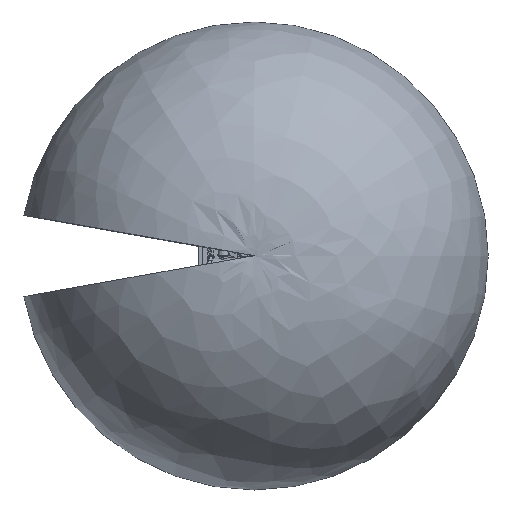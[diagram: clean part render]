
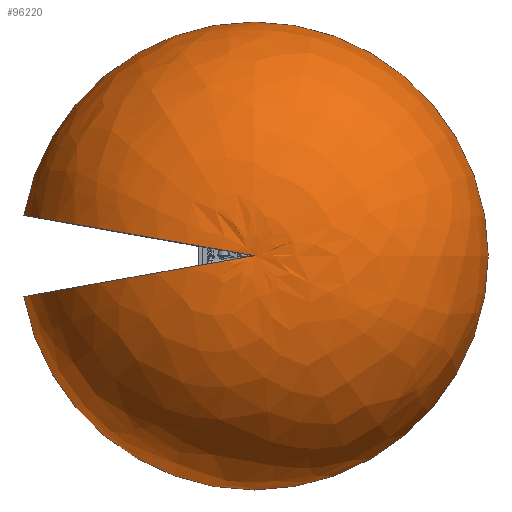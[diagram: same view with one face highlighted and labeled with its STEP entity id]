
A CAD part, top view. The second image highlights one B-rep face of the part: STEP entity #96220.
In plain terms, the highlighted free-form (B-spline) face has degree [2, 2] with [5, 9] control points.
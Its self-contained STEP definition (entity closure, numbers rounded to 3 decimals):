
#249=(
BOUNDED_SURFACE()
B_SPLINE_SURFACE(2,2,((#233403,#233404,#233405,#233406,#233407,#233408,
#233409,#233410,#233411),(#233412,#233413,#233414,#233415,#233416,#233417,
#233418,#233419,#233420),(#233421,#233422,#233423,#233424,#233425,#233426,
#233427,#233428,#233429),(#233430,#233431,#233432,#233433,#233434,#233435,
#233436,#233437,#233438),(#233439,#233440,#233441,#233442,#233443,#233444,
#233445,#233446,#233447)),.UNSPECIFIED.,.F.,.F.,.F.)
B_SPLINE_SURFACE_WITH_KNOTS((3,2,3),(3,2,2,2,3),(0.086,0.897,
1.708),(-2.967,-1.484,0.,
1.484,2.967),.UNSPECIFIED.)
GEOMETRIC_REPRESENTATION_ITEM()
RATIONAL_B_SPLINE_SURFACE(((1.,0.737,1.,0.737,1.,
0.737,1.,0.737,1.),(0.919,0.677,
0.919,0.677,0.919,0.677,
0.919,0.677,0.919),(1.,0.737,
1.,0.737,1.,0.737,1.,0.737,1.),(0.919,
0.677,0.919,0.677,0.919,
0.677,0.919,0.677,0.919),
(1.,0.737,1.,0.737,1.,0.737,1.,0.737,
1.)))
REPRESENTATION_ITEM('')
SURFACE()
);
#8051=CIRCLE('',#105089,2650.);
#8058=CIRCLE('',#105096,2338.568);
#8059=CIRCLE('',#105097,2338.568);
#14043=FACE_OUTER_BOUND('',#20520,.T.);
#20520=EDGE_LOOP('',(#86777,#86778,#86779));
#46050=VERTEX_POINT('',#233318);
#46051=VERTEX_POINT('',#233320);
#46055=VERTEX_POINT('',#233448);
#59624=EDGE_CURVE('',#46051,#46050,#8051,.T.);
#59631=EDGE_CURVE('',#46055,#46050,#8058,.T.);
#59632=EDGE_CURVE('',#46055,#46051,#8059,.T.);
#86777=ORIENTED_EDGE('',*,*,#59624,.T.);
#86778=ORIENTED_EDGE('',*,*,#59631,.F.);
#86779=ORIENTED_EDGE('',*,*,#59632,.T.);
#96220=ADVANCED_FACE('',(#14043),#249,.F.);
#105089=AXIS2_PLACEMENT_3D('',#233321,#130332,#130333);
#105096=AXIS2_PLACEMENT_3D('',#233449,#130346,#130347);
#105097=AXIS2_PLACEMENT_3D('',#233450,#130348,#130349);
#130332=DIRECTION('center_axis',(0.,0.,1.));
#130333=DIRECTION('ref_axis',(1.,0.,0.));
#130346=DIRECTION('center_axis',(-0.174,-0.985,
0.));
#130347=DIRECTION('ref_axis',(0.,0.,-1.));
#130348=DIRECTION('center_axis',(0.174,-0.985,0.));
#130349=DIRECTION('ref_axis',(0.,0.,-1.));
#233318=CARTESIAN_POINT('',(-2609.741,460.168,980.));
#233320=CARTESIAN_POINT('',(-2609.741,-460.168,980.));
#233321=CARTESIAN_POINT('Origin',(0.,0.,980.));
#233403=CARTESIAN_POINT('Ctrl Pts',(-2609.741,-460.168,
980.));
#233404=CARTESIAN_POINT('Ctrl Pts',(-2188.075,-2851.554,
980.));
#233405=CARTESIAN_POINT('Ctrl Pts',(230.963,-2639.916,
980.));
#233406=CARTESIAN_POINT('Ctrl Pts',(2650.,-2428.278,980.));
#233407=CARTESIAN_POINT('Ctrl Pts',(2650.,0.,980.));
#233408=CARTESIAN_POINT('Ctrl Pts',(2650.,2428.278,980.));
#233409=CARTESIAN_POINT('Ctrl Pts',(230.963,2639.916,980.));
#233410=CARTESIAN_POINT('Ctrl Pts',(-2188.075,2851.554,
980.));
#233411=CARTESIAN_POINT('Ctrl Pts',(-2609.741,460.168,
980.));
#233412=CARTESIAN_POINT('Ctrl Pts',(-2525.161,-445.254,
1980.55));
#233413=CARTESIAN_POINT('Ctrl Pts',(-2117.161,-2759.138,
1980.55));
#233414=CARTESIAN_POINT('Ctrl Pts',(223.477,-2554.359,1980.55));
#233415=CARTESIAN_POINT('Ctrl Pts',(2564.116,-2349.579,
1980.55));
#233416=CARTESIAN_POINT('Ctrl Pts',(2564.116,0.,1980.55));
#233417=CARTESIAN_POINT('Ctrl Pts',(2564.116,2349.579,1980.55));
#233418=CARTESIAN_POINT('Ctrl Pts',(223.477,2554.359,1980.55));
#233419=CARTESIAN_POINT('Ctrl Pts',(-2117.161,2759.138,
1980.55));
#233420=CARTESIAN_POINT('Ctrl Pts',(-2525.161,445.254,1980.55));
#233421=CARTESIAN_POINT('Ctrl Pts',(-1752.416,-308.998,
2607.268));
#233422=CARTESIAN_POINT('Ctrl Pts',(-1469.271,-1914.791,
2607.268));
#233423=CARTESIAN_POINT('Ctrl Pts',(155.089,-1772.678,
2607.268));
#233424=CARTESIAN_POINT('Ctrl Pts',(1779.45,-1630.565,
2607.268));
#233425=CARTESIAN_POINT('Ctrl Pts',(1779.45,0.,2607.268));
#233426=CARTESIAN_POINT('Ctrl Pts',(1779.45,1630.565,2607.268));
#233427=CARTESIAN_POINT('Ctrl Pts',(155.089,1772.678,2607.268));
#233428=CARTESIAN_POINT('Ctrl Pts',(-1469.271,1914.791,
2607.268));
#233429=CARTESIAN_POINT('Ctrl Pts',(-1752.416,308.998,
2607.268));
#233430=CARTESIAN_POINT('Ctrl Pts',(-979.67,-172.742,
3233.985));
#233431=CARTESIAN_POINT('Ctrl Pts',(-821.381,-1070.445,
3233.985));
#233432=CARTESIAN_POINT('Ctrl Pts',(86.701,-990.998,
3233.985));
#233433=CARTESIAN_POINT('Ctrl Pts',(994.783,-911.551,3233.985));
#233434=CARTESIAN_POINT('Ctrl Pts',(994.783,0.,3233.985));
#233435=CARTESIAN_POINT('Ctrl Pts',(994.783,911.551,3233.985));
#233436=CARTESIAN_POINT('Ctrl Pts',(86.701,990.998,3233.985));
#233437=CARTESIAN_POINT('Ctrl Pts',(-821.381,1070.445,
3233.985));
#233438=CARTESIAN_POINT('Ctrl Pts',(-979.67,172.742,
3233.985));
#233439=CARTESIAN_POINT('Ctrl Pts',(0.,0.,
3096.571));
#233440=CARTESIAN_POINT('Ctrl Pts',(0.,0.,
3096.571));
#233441=CARTESIAN_POINT('Ctrl Pts',(0.,0.,
3096.571));
#233442=CARTESIAN_POINT('Ctrl Pts',(0.,0.,
3096.571));
#233443=CARTESIAN_POINT('Ctrl Pts',(0.,0.,3096.571));
#233444=CARTESIAN_POINT('Ctrl Pts',(0.,0.,
3096.571));
#233445=CARTESIAN_POINT('Ctrl Pts',(0.,0.,
3096.571));
#233446=CARTESIAN_POINT('Ctrl Pts',(0.,0.,
3096.571));
#233447=CARTESIAN_POINT('Ctrl Pts',(0.,0.,
3096.571));
#233448=CARTESIAN_POINT('',(0.,0.,3096.571));
#233449=CARTESIAN_POINT('Origin',(-315.138,55.567,780.));
#233450=CARTESIAN_POINT('Origin',(-315.138,-55.567,780.));
